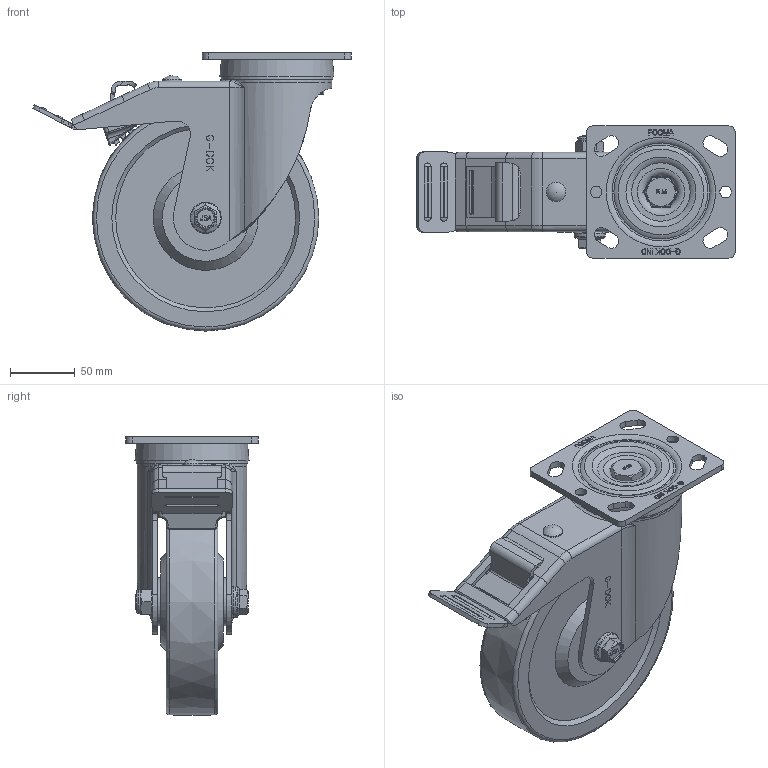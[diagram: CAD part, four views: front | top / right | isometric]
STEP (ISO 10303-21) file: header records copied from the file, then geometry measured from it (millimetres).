
FILE_DESCRIPTION(/* description */ (''),/* implementation_level */ '2;1');
FILE_NAME(/* name */ '\\192.168.10.38\지덕공유\1.기술연구소\2.연구개발 진행중\28.PLM-SERIES_MEDIUM\제품설계\홈페이지용 도면\PLM-175-BSF-MCD.stp',/* time_stamp */ '2022-03-04T18:24:26+09:00',/* author */ ('admin'),/* organization */ (''),/* preprocessor_version */ 'ST-DEVELOPER v18.1',/* originating_system */ 'Autodesk Inventor 2021',/* authorisation */ '');
FILE_SCHEMA (('AUTOMOTIVE_DESIGN { 1 0 10303 214 3 1 1 }'));
Products named in the file (1): PLM-175-BSF-MCD
Bounding box: 246.12 x 102 x 214.98 mm (x, y, z)
Volume: 1270262.6 mm3; surface area: 197975.5 mm2
Topology: 3 solids, 3 shells, 1645 faces, 4457 edges, 2863 vertices
Faces by surface type: plane 904, cylinder 377, bspline 247, cone 52, torus 40, sphere 25
Full cylindrical faces by diameter (mm): 0.136 x1, 3 x1, 3.2 x3, 6 x2, 9 x3, 12 x1, 14 x1, 15 x1, 16 x1, 18.5 x1, 24 x1, 37 x2, 64.8 x1, 72.8 x1, 85.857 x1
Entity records: 58372 total; most frequent: CARTESIAN_POINT 18459, ORIENTED_EDGE 8868, DIRECTION 7493, EDGE_CURVE 4434, VERTEX_POINT 2863, LINE 2731, VECTOR 2731, AXIS2_PLACEMENT_3D 2381
